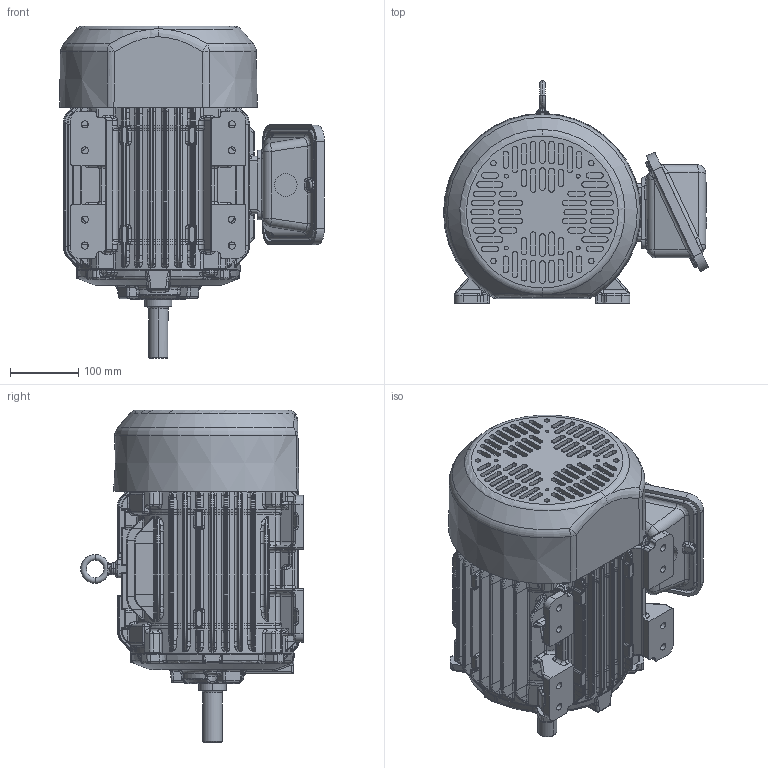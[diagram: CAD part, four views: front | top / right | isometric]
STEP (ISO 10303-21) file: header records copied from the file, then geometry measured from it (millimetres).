
FILE_DESCRIPTION((''),'2;1');
FILE_NAME('210_3D_ASM_ASM','2019-04-05T09:19:04',('EMD2341'),('Nidec Motor Corporation'),'CREO PARAMETRIC BY PTC INC, 2018300','CREO PARAMETRIC BY PTC INC, 2018300','');
FILE_SCHEMA(('CONFIG_CONTROL_DESIGN'));
Length unit declared in the file: inch
Products named in the file (10): 210_FOOTED_FRAME; 210_DE_BRKT; 0133167; 210_CAST_GSK_OBB; 210_CAST_NEMA; 210_CAST_GSK_OBC; 210_CAST_OBC; 210_JDE; 210_STL_FCVR; 210_3D_ASM_ASM
Assembly tree (9 placements, depth 2):
  210_3D_ASM_ASM
    210_FOOTED_FRAME
    210_DE_BRKT
    0133167
    210_CAST_GSK_OBB
    210_CAST_NEMA
    210_CAST_GSK_OBC
    210_CAST_OBC
    210_JDE
    210_STL_FCVR
Bounding box: 389.03 x 326.64 x 487.43 mm (x, y, z)
Volume: 22691445 mm3; surface area: 1142048.6 mm2
Topology: 9 solids, 10 shells, 4583 faces, 10510 edges, 6030 vertices
Faces by surface type: bspline 1918, cylinder 1052, plane 880, extrusion 298, torus 266, sphere 124, cone 45
Entity records: 210595 total; most frequent: CARTESIAN_POINT 120725, ORIENTED_EDGE 21016, DIRECTION 15012, EDGE_CURVE 10510, VERTEX_POINT 6030, AXIS2_PLACEMENT_3D 5707, EDGE_LOOP 4692, FACE_OUTER_BOUND 4583
